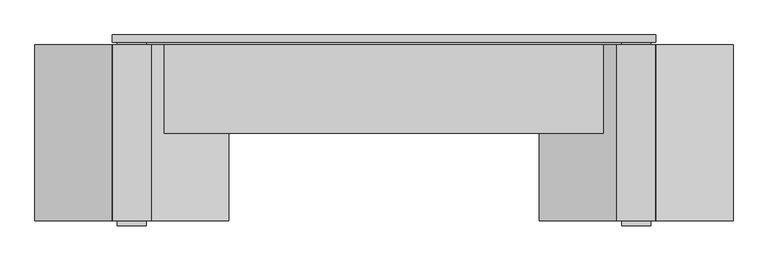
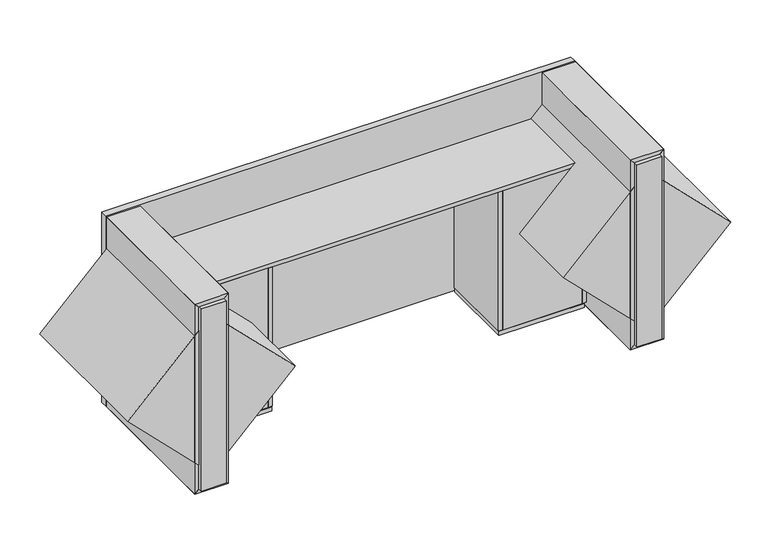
"""IFC4 building model written with IfcOpenShell, lengths in millimetres: proxy geometry, BASYS^OFFICE 4_DESK-HALF LTR STORAGE."""

from ifc_helpers import new_model, si_unit, frame, origin, origin_with_axes, place, context, project, spatial, polyline, outline, extrude, source, transform, mapped, element, save


def generic_models_2694a0a2(model_context):
    return source(origin(), model_context, "Body", "SweptSolid", [
        extrude(outline(polyline([(1676.603125, 665.4), (1878.603125, 665.4), (1878.603125, 655.4), (1676.603125, 655.4), (1676.603125, 665.4)])), frame((0.0, 0.0, -30.0), z_axis=(0.0, 0.0, 1.0), x_axis=(1.0, 0.0, 0.0)), (0.0, 0.0, 1.0), 30.0),
        extrude(outline(polyline([(254.996875, 490.536875), (456.996875, 490.536875), (456.996875, 480.536875), (254.996875, 480.536875), (254.996875, 490.536875)])), frame((0.0, 0.0, -30.0), z_axis=(0.0, 0.0, 1.0), x_axis=(1.0, 0.0, 0.0)), (0.0, 0.0, 1.0), 30.0),
        extrude(outline(polyline([(1981.2, 711.2), (1981.2, 363.855), (1962.15, 363.855), (1962.15, 711.2), (1981.2, 711.2)])), frame((0.0, 0.0, 22.225), z_axis=(0.0, 0.0, 1.0), x_axis=(1.0, 0.0, 0.0)), (0.0, 0.0, 1.0), 669.925),
        extrude(outline(polyline([(914.4, 2133.6), (457.2, 1676.4), (0.0, 2133.6), (914.4, 2133.6)])), frame((0.0, 19.05, 0.0), z_axis=(0.0, 1.0, 0.0), x_axis=(0.0, 0.0, 1.0)), (0.0, 0.0, 1.0), 692.15),
        extrude(outline(polyline([(838.2, 76.2), (914.4, 152.4), (914.4, 0.0), (838.2, 76.2)])), frame((0.0, 19.05, 0.0), z_axis=(0.0, 1.0, 0.0), x_axis=(0.0, 0.0, 1.0)), (0.0, 0.0, 1.0), 692.15),
        extrude(outline(polyline([(457.2, -304.8), (0.0, 152.4), (914.4, 152.4), (457.2, -304.8)])), frame((0.0, 19.05, 0.0), z_axis=(0.0, 1.0, 0.0), x_axis=(0.0, 0.0, 1.0)), (0.0, 0.0, 1.0), 692.15),
        extrude(outline(polyline([(533.4, 363.855), (533.4, 711.2), (552.45, 711.2), (552.45, 363.855), (533.4, 363.855)])), frame((0.0, 0.0, 22.225), z_axis=(0.0, 0.0, 1.0), x_axis=(1.0, 0.0, 0.0)), (0.0, 0.0, 1.0), 669.925),
        extrude(outline(polyline([(533.4, 382.905), (533.4, 363.855), (171.45, 363.855), (171.45, 382.905), (533.4, 382.905)])), frame((0.0, 0.0, 22.225), z_axis=(0.0, 0.0, 1.0), x_axis=(1.0, 0.0, 0.0)), (0.0, 0.0, 1.0), 669.925),
        extrude(outline(polyline([(19.05, 720.725), (133.35, 720.725), (133.35, 692.15), (19.05, 692.15), (19.05, 720.725)])), frame((0.0, 0.0, 19.05), z_axis=(0.0, 0.0, 1.0), x_axis=(1.0, 0.0, 0.0)), (0.0, 0.0, 1.0), 876.3),
        extrude(outline(polyline([(0.0, 2133.6), (76.2, 2057.4), (0.0, 1981.2), (0.0, 2133.6)])), frame((0.0, 19.05, 0.0), z_axis=(0.0, 1.0, 0.0), x_axis=(0.0, 0.0, 1.0)), (0.0, 0.0, 1.0), 692.15),
        extrude(outline(polyline([(2000.25, 0.0), (2000.25, 38.1), (2114.55, 38.1), (2114.55, 0.0), (2000.25, 0.0)])), frame((0.0, 0.0, 19.05), z_axis=(0.0, 0.0, 1.0), x_axis=(1.0, 0.0, 0.0)), (0.0, 0.0, 1.0), 876.3),
        extrude(outline(polyline([(152.4, 711.2), (1981.2, 711.2), (1981.2, 363.855), (152.4, 363.855), (152.4, 711.2)])), frame((0.0, 0.0, 692.15), z_axis=(0.0, 0.0, 1.0), x_axis=(1.0, 0.0, 0.0)), (0.0, 0.0, 1.0), 19.05),
        extrude(outline(polyline([(2133.6, 720.725), (0.0, 720.725), (0.0, 749.3), (2133.6, 749.3), (2133.6, 720.725)])), origin_with_axes(), (0.0, 0.0, 1.0), 914.4),
        extrude(outline(polyline([(19.05, 0.0), (19.05, 38.1), (133.35, 38.1), (133.35, 0.0), (19.05, 0.0)])), frame((0.0, 0.0, 19.05), z_axis=(0.0, 0.0, 1.0), x_axis=(1.0, 0.0, 0.0)), (0.0, 0.0, 1.0), 876.3),
        extrude(outline(polyline([(152.4, 363.855), (152.4, 711.2), (171.45, 711.2), (171.45, 363.855), (152.4, 363.855)])), frame((0.0, 0.0, 22.225), z_axis=(0.0, 0.0, 1.0), x_axis=(1.0, 0.0, 0.0)), (0.0, 0.0, 1.0), 669.925),
        extrude(outline(polyline([(1600.2, 711.2), (1600.2, 363.855), (1581.15, 363.855), (1581.15, 711.2), (1600.2, 711.2)])), frame((0.0, 0.0, 22.225), z_axis=(0.0, 0.0, 1.0), x_axis=(1.0, 0.0, 0.0)), (0.0, 0.0, 1.0), 669.925),
        extrude(outline(polyline([(76.2, 76.2), (0.0, 0.0), (0.0, 152.4), (76.2, 76.2)])), frame((0.0, 19.05, 0.0), z_axis=(0.0, 1.0, 0.0), x_axis=(0.0, 0.0, 1.0)), (0.0, 0.0, 1.0), 692.15),
        extrude(outline(polyline([(914.4, 1981.2), (838.2, 2057.4), (914.4, 2133.6), (914.4, 1981.2)])), frame((0.0, 19.05, 0.0), z_axis=(0.0, 1.0, 0.0), x_axis=(0.0, 0.0, 1.0)), (0.0, 0.0, 1.0), 692.15),
        extrude(outline(polyline([(2000.25, 673.1), (133.35, 673.1), (133.35, 720.725), (2000.25, 720.725), (2000.25, 673.1)])), frame((0.0, 0.0, 666.75), z_axis=(0.0, 0.0, 1.0), x_axis=(1.0, 0.0, 0.0)), (0.0, 0.0, 1.0), 25.4),
        extrude(outline(polyline([(2000.25, 692.15), (2000.25, 720.725), (2114.55, 720.725), (2114.55, 692.15), (2000.25, 692.15)])), frame((0.0, 0.0, 19.05), z_axis=(0.0, 0.0, 1.0), x_axis=(1.0, 0.0, 0.0)), (0.0, 0.0, 1.0), 876.3),
        extrude(outline(polyline([(550.06875, 711.2), (550.06875, 538.718125), (161.925, 538.718125), (161.925, 711.2), (550.06875, 711.2)])), origin_with_axes(), (0.0, 0.0, 1.0), 19.05),
        extrude(outline(polyline([(457.2, 2438.4), (914.4, 1981.2), (0.0, 1981.2), (457.2, 2438.4)])), frame((0.0, 19.05, 0.0), z_axis=(0.0, 1.0, 0.0), x_axis=(0.0, 0.0, 1.0)), (0.0, 0.0, 1.0), 692.15),
        extrude(outline(polyline([(161.925, 363.855), (161.925, 536.336875), (550.06875, 536.336875), (550.06875, 363.855), (161.925, 363.855)])), origin_with_axes(), (0.0, 0.0, 1.0), 19.05),
        extrude(outline(polyline([(1600.2, 363.855), (1600.2, 382.905), (1962.15, 382.905), (1962.15, 363.855), (1600.2, 363.855)])), frame((0.0, 0.0, 22.225), z_axis=(0.0, 0.0, 1.0), x_axis=(1.0, 0.0, 0.0)), (0.0, 0.0, 1.0), 669.925),
        extrude(outline(polyline([(457.2, 457.2), (914.4, 0.0), (0.0, 0.0), (457.2, 457.2)])), frame((0.0, 19.05, 0.0), z_axis=(0.0, 1.0, 0.0), x_axis=(0.0, 0.0, 1.0)), (0.0, 0.0, 1.0), 692.15),
        extrude(outline(polyline([(1971.675, 711.2), (1971.675, 363.855), (1583.53125, 363.855), (1583.53125, 711.2), (1971.675, 711.2)])), origin_with_axes(), (0.0, 0.0, 1.0), 19.05),
        extrude(outline(polyline([(254.996875, 665.4), (456.996875, 665.4), (456.996875, 655.4), (254.996875, 655.4), (254.996875, 665.4)])), frame((0.0, 0.0, -30.0), z_axis=(0.0, 0.0, 1.0), x_axis=(1.0, 0.0, 0.0)), (0.0, 0.0, 1.0), 30.0),
    ])


if __name__ == "__main__":
    model = new_model("IFC4")
    model_context = context("Model", 3, world=origin())
    ifc_project = project(units=[si_unit("LENGTHUNIT", "METRE", prefix="MILLI")], contexts=[model_context])
    site = spatial("IfcSite", under=ifc_project)
    building = spatial("IfcBuilding", under=site)
    placement = place(None, origin())
    generic_models_shape = generic_models_2694a0a2(model_context)
    element("IfcBuildingElementProxy", 1, Name="BASYS^OFFICE 4_DESK-HALF LTR STORAGE", ObjectType="BASYS^OFFICE 4_DESK-HALF LTR STORAGE", at=placement, inside=building, context=model_context, shape_type="MappedRepresentation", body=[
        mapped(generic_models_shape, transform((0.0, 0.0, 0.0), x_axis=(1.0, 0.0, 0.0), y_axis=(0.0, 1.0, 0.0), z_axis=(0.0, 0.0, 1.0))),
    ])
    save(model, "model.ifc")
